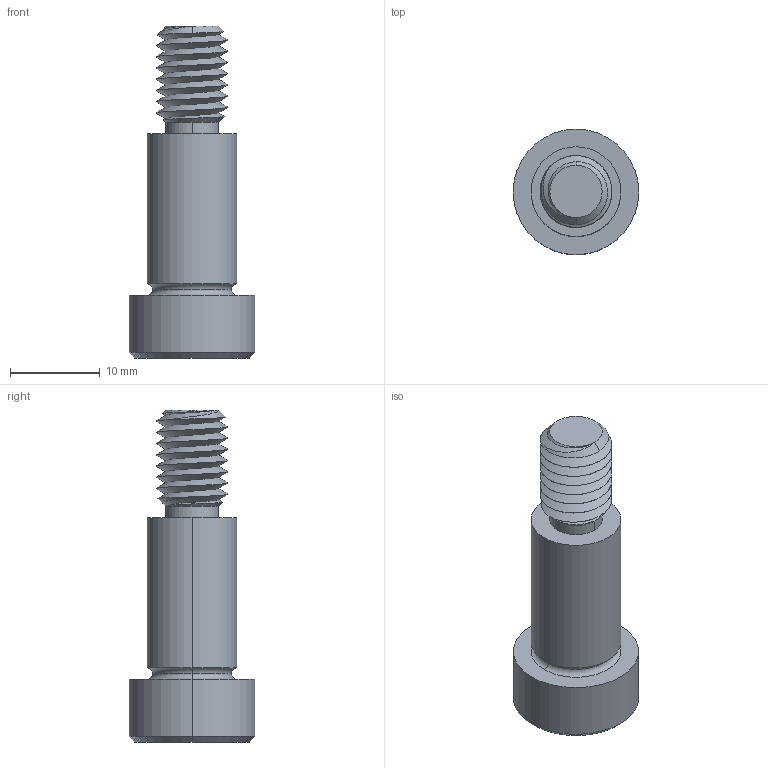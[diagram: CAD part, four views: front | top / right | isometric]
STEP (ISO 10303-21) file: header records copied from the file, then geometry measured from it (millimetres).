
FILE_DESCRIPTION (( 'STEP AP203' ), '1' );
FILE_NAME ('P0130.100-018-B8.step', '2021-11-09T21:52:12', ( '' ), ( '' ), 'SwSTEP 2.0', 'SolidWorks 2019', '' );
FILE_SCHEMA (( 'CONFIG_CONTROL_DESIGN' ));
Length unit declared in the file: millimetre
Products named in the file (1): P0130.100-018-B8
Bounding box: 14 x 14 x 37 mm (x, y, z)
Volume: 2780.8 mm3; surface area: 1743.4 mm2
Topology: 1 solids, 1 shells, 58 faces, 136 edges, 81 vertices
Faces by surface type: cylinder 21, plane 16, cone 15, torus 4, bspline 2
Entity records: 4214 total; most frequent: CARTESIAN_POINT 2911, ORIENTED_EDGE 268, DIRECTION 241, EDGE_CURVE 134, AXIS2_PLACEMENT_3D 97, VERTEX_POINT 81, EDGE_LOOP 61, FACE_OUTER_BOUND 58
